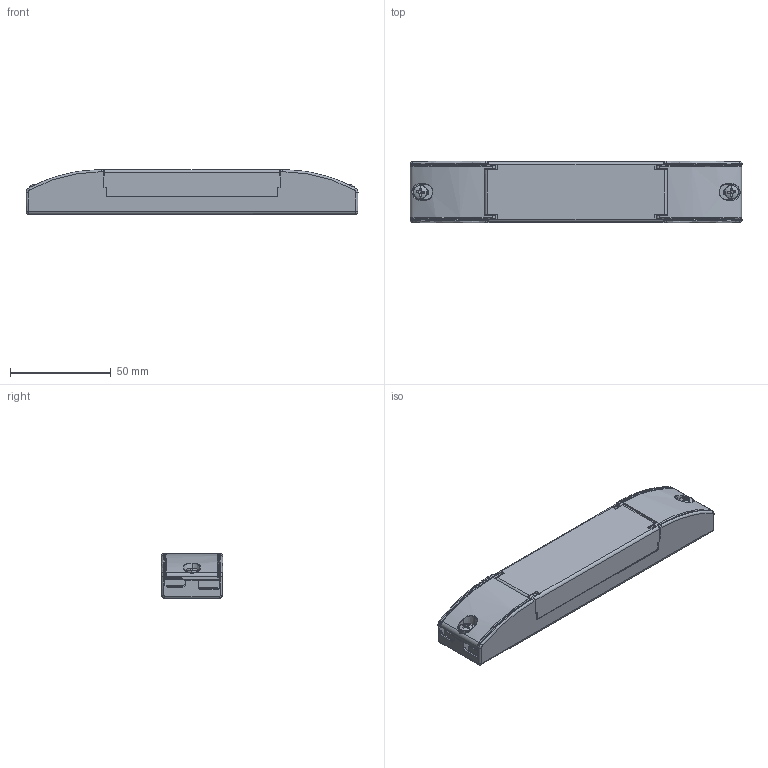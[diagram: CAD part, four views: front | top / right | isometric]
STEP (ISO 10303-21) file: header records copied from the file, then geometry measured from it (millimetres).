
FILE_DESCRIPTION (( 'STEP AP214' ), '1' );
FILE_NAME ('4266680swm000.step', '2020-11-30T02:02:52', ( 'Windows User' ), ( '' ), 'SwSTEP 2.0', 'SolidWorks 2020', '' );
FILE_SCHEMA (( 'AUTOMOTIVE_DESIGN' ));
Length unit declared in the file: millimetre
Products named in the file (1): 4266680swm000
Bounding box: 165.06 x 30.63 x 22.2 mm (x, y, z)
Volume: 81178 mm3; surface area: 36383.2 mm2
Topology: 4 solids, 16 shells, 2034 faces, 5545 edges, 3531 vertices
Faces by surface type: plane 1184, cylinder 334, bspline 291, cone 193, torus 16, sphere 16
Entity records: 84257 total; most frequent: CARTESIAN_POINT 24243, ORIENTED_EDGE 11074, DIRECTION 8769, EDGE_CURVE 5537, LINE 3611, VECTOR 3611, VERTEX_POINT 3531, AXIS2_PLACEMENT_3D 2579
